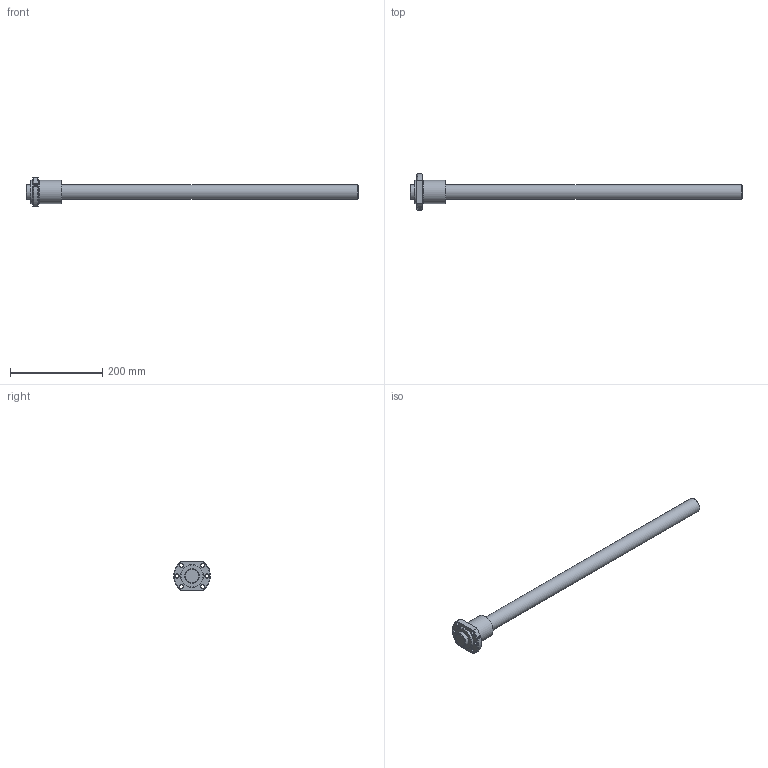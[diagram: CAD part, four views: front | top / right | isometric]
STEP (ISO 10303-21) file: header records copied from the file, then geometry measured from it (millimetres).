
FILE_DESCRIPTION(/* description */ ('STEP AP214'),/* implementation_level */ '2;1');
FILE_NAME(/* name */ 'EPB3205-6RRG0+720LC0(633G000)_rev',/* time_stamp */ '2023-08-03T13:27:02+02:00',/* author */ ('License CC BY-ND 4.0'),/* organization */ ('CADENAS'),/* preprocessor_version */ 'ST-DEVELOPER v19.3',/* originating_system */ 'PARTsolutions',/* authorisation */ ' ');
FILE_SCHEMA (('AUTOMOTIVE_DESIGN {1 0 10303 214 3 1 1}'));
Length unit declared in the file: millimetre
Products named in the file (3): EPB3205-6RRG0+720LC0(633G000)_rev; EPB 3205-6RR Nut1; EPB 3205-66330 Shaft1
Assembly tree (2 placements, depth 2):
  EPB3205-6RRG0+720LC0(633G000)_rev
    EPB 3205-6RR Nut1
    EPB 3205-66330 Shaft1
Bounding box: 720 x 79.74 x 62 mm (x, y, z)
Volume: 679688.8 mm3; surface area: 100930.7 mm2
Topology: 2 solids, 2 shells, 32 faces, 72 edges, 47 vertices
Faces by surface type: cylinder 14, cone 9, plane 9
Full cylindrical faces by diameter (mm): 4.917 x1, 9 x6, 32 x2, 47 x1, 50 x2
Entity records: 935 total; most frequent: CARTESIAN_POINT 177, DIRECTION 148, ORIENTED_EDGE 106, AXIS2_PLACEMENT_3D 70, EDGE_LOOP 68, FACE_BOUND 68, EDGE_CURVE 53, VERTEX_POINT 45
